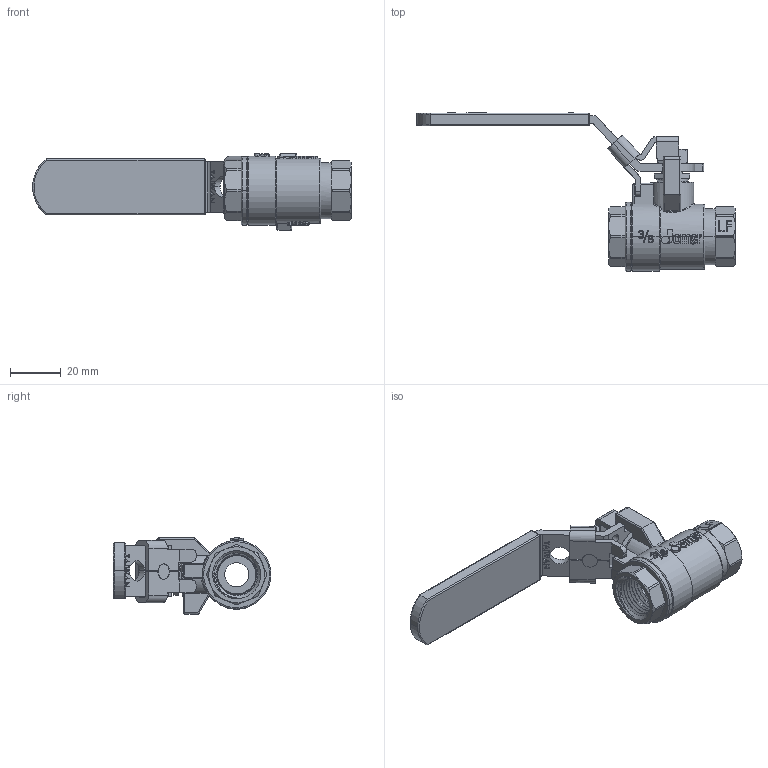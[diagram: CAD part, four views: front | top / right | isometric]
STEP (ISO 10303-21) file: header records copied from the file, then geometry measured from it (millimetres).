
FILE_DESCRIPTION (( 'STEP AP203' ), '1' );
FILE_NAME ('ABL742-有掛鎖-0.375''''JOMAR球閥體組合-無鉛無插溝.STEP', '2025-12-15T07:43:56', ( '' ), ( '' ), 'SwSTEP 2.0', 'SolidWorks 2018', '' );
FILE_SCHEMA (( 'CONFIG_CONTROL_DESIGN' ));
Length unit declared in the file: millimetre
Products named in the file (14): DN15-CBL743-LATCH LOCK HANDLE 組合; ABL742-有掛鎖-0.375''''JOMAR球閥體組合-無鉛無插溝; TBL261A; EBL203A; RBL261-無鑽孔; DN15-CBL211э; EBL203B; DN15-掛鎖; BBL702A-0.375''''JOMAR球閥八角頭-無鉛無插溝; NBL262; GBL211; DN8 & DN15-CBL743-白色膠套-T&G-200CSSG-LH; EBL201; BBL702-0.375''''JOMAR球閥體-無鉛無插溝
Assembly tree (14 placements, depth 3):
  ABL742-有掛鎖-0.375''''JOMAR球閥體組合-無鉛無插溝
    BBL702-0.375''''JOMAR球閥體-無鉛無插溝
    EBL203A
    EBL203B
    GBL211
    RBL261-無鑽孔
    BBL702A-0.375''''JOMAR球閥八角頭-無鉛無插溝
    NBL262
    EBL201  x2
    TBL261A
    DN15-CBL743-LATCH LOCK HANDLE 組合
      DN15-CBL211э
      DN15-掛鎖
    DN8 & DN15-CBL743-白色膠套-T&G-200CSSG-LH
Bounding box: 125.5 x 62.21 x 30 mm (x, y, z)
Volume: 21269 mm3; surface area: 33218.2 mm2
Topology: 12 solids, 14 shells, 2363 faces, 6669 edges, 4512 vertices
Faces by surface type: plane 1248, bspline 677, cylinder 280, cone 124, torus 18, sphere 16
Entity records: 127152 total; most frequent: CARTESIAN_POINT 70475, ORIENTED_EDGE 13254, DIRECTION 8368, EDGE_CURVE 6629, VERTEX_POINT 4492, VECTOR 3902, LINE 3902, EDGE_LOOP 2566
